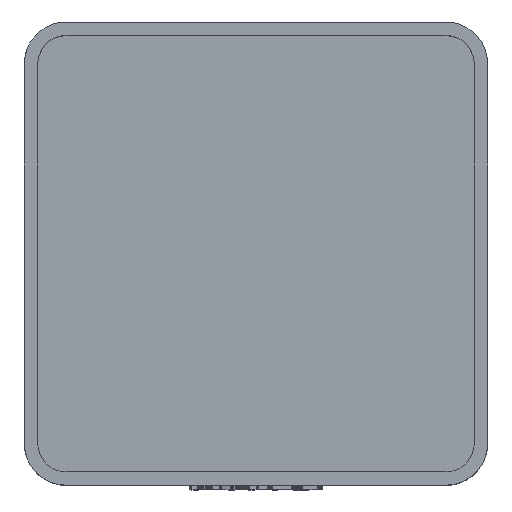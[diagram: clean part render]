
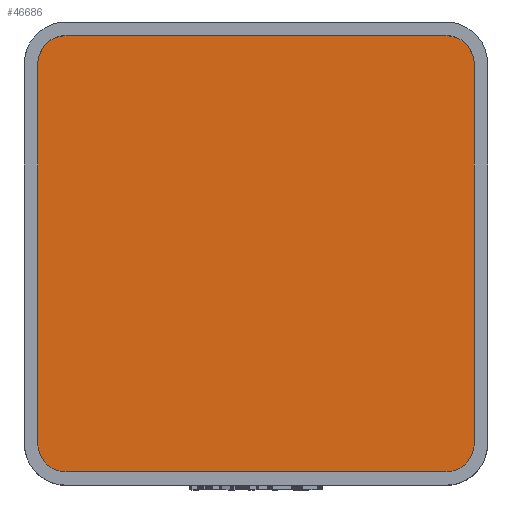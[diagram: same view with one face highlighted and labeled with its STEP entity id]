
A CAD part, top view. The second image highlights one B-rep face of the part: STEP entity #46686.
In plain terms, the highlighted planar face has unit normal (0, 0, 1).
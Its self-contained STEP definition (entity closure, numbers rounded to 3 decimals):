
#1442 = PLANE('',#1443);
#1443 = AXIS2_PLACEMENT_3D('',#1444,#1445,#1446);
#1444 = CARTESIAN_POINT('',(-19.55,-17.,4.75));
#1445 = DIRECTION('',(-1.,0.,0.));
#1446 = DIRECTION('',(0.,1.,0.));
#1474 = CYLINDRICAL_SURFACE('',#1475,2.55);
#1475 = AXIS2_PLACEMENT_3D('',#1476,#1477,#1478);
#1476 = CARTESIAN_POINT('',(-17.,17.,4.75));
#1477 = DIRECTION('',(-0.,-0.,-1.));
#1478 = DIRECTION('',(1.,0.,0.));
#1501 = PLANE('',#1502);
#1502 = AXIS2_PLACEMENT_3D('',#1503,#1504,#1505);
#1503 = CARTESIAN_POINT('',(-17.,19.55,4.75));
#1504 = DIRECTION('',(0.,1.,0.));
#1505 = DIRECTION('',(1.,0.,0.));
#1533 = CYLINDRICAL_SURFACE('',#1534,2.55);
#1534 = AXIS2_PLACEMENT_3D('',#1535,#1536,#1537);
#1535 = CARTESIAN_POINT('',(17.,17.,4.75));
#1536 = DIRECTION('',(-0.,-0.,-1.));
#1537 = DIRECTION('',(1.,0.,0.));
#1560 = PLANE('',#1561);
#1561 = AXIS2_PLACEMENT_3D('',#1562,#1563,#1564);
#1562 = CARTESIAN_POINT('',(19.55,-17.,4.75));
#1563 = DIRECTION('',(-1.,0.,0.));
#1564 = DIRECTION('',(0.,1.,0.));
#1592 = CYLINDRICAL_SURFACE('',#1593,2.55);
#1593 = AXIS2_PLACEMENT_3D('',#1594,#1595,#1596);
#1594 = CARTESIAN_POINT('',(17.,-17.,4.75));
#1595 = DIRECTION('',(-0.,-0.,-1.));
#1596 = DIRECTION('',(1.,0.,0.));
#1619 = PLANE('',#1620);
#1620 = AXIS2_PLACEMENT_3D('',#1621,#1622,#1623);
#1621 = CARTESIAN_POINT('',(-17.,-19.55,4.75));
#1622 = DIRECTION('',(0.,1.,0.));
#1623 = DIRECTION('',(1.,0.,0.));
#1649 = CYLINDRICAL_SURFACE('',#1650,2.55);
#1650 = AXIS2_PLACEMENT_3D('',#1651,#1652,#1653);
#1651 = CARTESIAN_POINT('',(-17.,-17.,4.75));
#1652 = DIRECTION('',(-0.,-0.,-1.));
#1653 = DIRECTION('',(1.,0.,0.));
#17207 = EDGE_CURVE('',#17208,#17210,#17212,.T.);
#17208 = VERTEX_POINT('',#17209);
#17209 = CARTESIAN_POINT('',(-19.55,-17.,4.75));
#17210 = VERTEX_POINT('',#17211);
#17211 = CARTESIAN_POINT('',(-19.55,17.,4.75));
#17212 = SURFACE_CURVE('',#17213,(#17217,#17224),.PCURVE_S1.);
#17213 = LINE('',#17214,#17215);
#17214 = CARTESIAN_POINT('',(-19.55,0.,4.75));
#17215 = VECTOR('',#17216,1.);
#17216 = DIRECTION('',(0.,1.,0.));
#17217 = PCURVE('',#1442,#17218);
#17218 = DEFINITIONAL_REPRESENTATION('',(#17219),#17223);
#17219 = LINE('',#17220,#17221);
#17220 = CARTESIAN_POINT('',(17.,0.));
#17221 = VECTOR('',#17222,1.);
#17222 = DIRECTION('',(1.,0.));
#17223 = ( GEOMETRIC_REPRESENTATION_CONTEXT(2) 
PARAMETRIC_REPRESENTATION_CONTEXT() REPRESENTATION_CONTEXT('2D SPACE',''
  ) );
#17224 = PCURVE('',#17225,#17230);
#17225 = PLANE('',#17226);
#17226 = AXIS2_PLACEMENT_3D('',#17227,#17228,#17229);
#17227 = CARTESIAN_POINT('',(0.,0.,4.75
    ));
#17228 = DIRECTION('',(0.,0.,1.));
#17229 = DIRECTION('',(1.,0.,-0.));
#17230 = DEFINITIONAL_REPRESENTATION('',(#17231),#17235);
#17231 = LINE('',#17232,#17233);
#17232 = CARTESIAN_POINT('',(-19.55,0.));
#17233 = VECTOR('',#17234,1.);
#17234 = DIRECTION('',(0.,1.));
#17235 = ( GEOMETRIC_REPRESENTATION_CONTEXT(2) 
PARAMETRIC_REPRESENTATION_CONTEXT() REPRESENTATION_CONTEXT('2D SPACE',''
  ) );
#17283 = EDGE_CURVE('',#17208,#17284,#17286,.T.);
#17284 = VERTEX_POINT('',#17285);
#17285 = CARTESIAN_POINT('',(-17.,-19.55,4.75));
#17286 = SURFACE_CURVE('',#17287,(#17292,#17299),.PCURVE_S1.);
#17287 = CIRCLE('',#17288,2.55);
#17288 = AXIS2_PLACEMENT_3D('',#17289,#17290,#17291);
#17289 = CARTESIAN_POINT('',(-17.,-17.,4.75));
#17290 = DIRECTION('',(0.,0.,1.));
#17291 = DIRECTION('',(1.,0.,0.));
#17292 = PCURVE('',#1649,#17293);
#17293 = DEFINITIONAL_REPRESENTATION('',(#17294),#17298);
#17294 = LINE('',#17295,#17296);
#17295 = CARTESIAN_POINT('',(-0.,0.));
#17296 = VECTOR('',#17297,1.);
#17297 = DIRECTION('',(-1.,0.));
#17298 = ( GEOMETRIC_REPRESENTATION_CONTEXT(2) 
PARAMETRIC_REPRESENTATION_CONTEXT() REPRESENTATION_CONTEXT('2D SPACE',''
  ) );
#17299 = PCURVE('',#17225,#17300);
#17300 = DEFINITIONAL_REPRESENTATION('',(#17301),#17305);
#17301 = CIRCLE('',#17302,2.55);
#17302 = AXIS2_PLACEMENT_2D('',#17303,#17304);
#17303 = CARTESIAN_POINT('',(-17.,-17.));
#17304 = DIRECTION('',(1.,0.));
#17305 = ( GEOMETRIC_REPRESENTATION_CONTEXT(2) 
PARAMETRIC_REPRESENTATION_CONTEXT() REPRESENTATION_CONTEXT('2D SPACE',''
  ) );
#17333 = EDGE_CURVE('',#17284,#17334,#17336,.T.);
#17334 = VERTEX_POINT('',#17335);
#17335 = CARTESIAN_POINT('',(17.,-19.55,4.75));
#17336 = SURFACE_CURVE('',#17337,(#17341,#17348),.PCURVE_S1.);
#17337 = LINE('',#17338,#17339);
#17338 = CARTESIAN_POINT('',(0.,-19.55,4.75));
#17339 = VECTOR('',#17340,1.);
#17340 = DIRECTION('',(1.,0.,0.));
#17341 = PCURVE('',#1619,#17342);
#17342 = DEFINITIONAL_REPRESENTATION('',(#17343),#17347);
#17343 = LINE('',#17344,#17345);
#17344 = CARTESIAN_POINT('',(17.,0.));
#17345 = VECTOR('',#17346,1.);
#17346 = DIRECTION('',(1.,0.));
#17347 = ( GEOMETRIC_REPRESENTATION_CONTEXT(2) 
PARAMETRIC_REPRESENTATION_CONTEXT() REPRESENTATION_CONTEXT('2D SPACE',''
  ) );
#17348 = PCURVE('',#17225,#17349);
#17349 = DEFINITIONAL_REPRESENTATION('',(#17350),#17354);
#17350 = LINE('',#17351,#17352);
#17351 = CARTESIAN_POINT('',(0.,-19.55));
#17352 = VECTOR('',#17353,1.);
#17353 = DIRECTION('',(1.,0.));
#17354 = ( GEOMETRIC_REPRESENTATION_CONTEXT(2) 
PARAMETRIC_REPRESENTATION_CONTEXT() REPRESENTATION_CONTEXT('2D SPACE',''
  ) );
#17382 = EDGE_CURVE('',#17334,#17383,#17385,.T.);
#17383 = VERTEX_POINT('',#17384);
#17384 = CARTESIAN_POINT('',(19.55,-17.,4.75));
#17385 = SURFACE_CURVE('',#17386,(#17391,#17398),.PCURVE_S1.);
#17386 = CIRCLE('',#17387,2.55);
#17387 = AXIS2_PLACEMENT_3D('',#17388,#17389,#17390);
#17388 = CARTESIAN_POINT('',(17.,-17.,4.75));
#17389 = DIRECTION('',(0.,0.,1.));
#17390 = DIRECTION('',(1.,0.,0.));
#17391 = PCURVE('',#1592,#17392);
#17392 = DEFINITIONAL_REPRESENTATION('',(#17393),#17397);
#17393 = LINE('',#17394,#17395);
#17394 = CARTESIAN_POINT('',(-0.,0.));
#17395 = VECTOR('',#17396,1.);
#17396 = DIRECTION('',(-1.,0.));
#17397 = ( GEOMETRIC_REPRESENTATION_CONTEXT(2) 
PARAMETRIC_REPRESENTATION_CONTEXT() REPRESENTATION_CONTEXT('2D SPACE',''
  ) );
#17398 = PCURVE('',#17225,#17399);
#17399 = DEFINITIONAL_REPRESENTATION('',(#17400),#17404);
#17400 = CIRCLE('',#17401,2.55);
#17401 = AXIS2_PLACEMENT_2D('',#17402,#17403);
#17402 = CARTESIAN_POINT('',(17.,-17.));
#17403 = DIRECTION('',(1.,0.));
#17404 = ( GEOMETRIC_REPRESENTATION_CONTEXT(2) 
PARAMETRIC_REPRESENTATION_CONTEXT() REPRESENTATION_CONTEXT('2D SPACE',''
  ) );
#17432 = EDGE_CURVE('',#17383,#17433,#17435,.T.);
#17433 = VERTEX_POINT('',#17434);
#17434 = CARTESIAN_POINT('',(19.55,17.,4.75));
#17435 = SURFACE_CURVE('',#17436,(#17440,#17447),.PCURVE_S1.);
#17436 = LINE('',#17437,#17438);
#17437 = CARTESIAN_POINT('',(19.55,0.,4.75));
#17438 = VECTOR('',#17439,1.);
#17439 = DIRECTION('',(0.,1.,0.));
#17440 = PCURVE('',#1560,#17441);
#17441 = DEFINITIONAL_REPRESENTATION('',(#17442),#17446);
#17442 = LINE('',#17443,#17444);
#17443 = CARTESIAN_POINT('',(17.,0.));
#17444 = VECTOR('',#17445,1.);
#17445 = DIRECTION('',(1.,0.));
#17446 = ( GEOMETRIC_REPRESENTATION_CONTEXT(2) 
PARAMETRIC_REPRESENTATION_CONTEXT() REPRESENTATION_CONTEXT('2D SPACE',''
  ) );
#17447 = PCURVE('',#17225,#17448);
#17448 = DEFINITIONAL_REPRESENTATION('',(#17449),#17453);
#17449 = LINE('',#17450,#17451);
#17450 = CARTESIAN_POINT('',(19.55,0.));
#17451 = VECTOR('',#17452,1.);
#17452 = DIRECTION('',(0.,1.));
#17453 = ( GEOMETRIC_REPRESENTATION_CONTEXT(2) 
PARAMETRIC_REPRESENTATION_CONTEXT() REPRESENTATION_CONTEXT('2D SPACE',''
  ) );
#17481 = EDGE_CURVE('',#17433,#17482,#17484,.T.);
#17482 = VERTEX_POINT('',#17483);
#17483 = CARTESIAN_POINT('',(17.,19.55,4.75));
#17484 = SURFACE_CURVE('',#17485,(#17490,#17497),.PCURVE_S1.);
#17485 = CIRCLE('',#17486,2.55);
#17486 = AXIS2_PLACEMENT_3D('',#17487,#17488,#17489);
#17487 = CARTESIAN_POINT('',(17.,17.,4.75));
#17488 = DIRECTION('',(0.,0.,1.));
#17489 = DIRECTION('',(1.,0.,0.));
#17490 = PCURVE('',#1533,#17491);
#17491 = DEFINITIONAL_REPRESENTATION('',(#17492),#17496);
#17492 = LINE('',#17493,#17494);
#17493 = CARTESIAN_POINT('',(-0.,0.));
#17494 = VECTOR('',#17495,1.);
#17495 = DIRECTION('',(-1.,0.));
#17496 = ( GEOMETRIC_REPRESENTATION_CONTEXT(2) 
PARAMETRIC_REPRESENTATION_CONTEXT() REPRESENTATION_CONTEXT('2D SPACE',''
  ) );
#17497 = PCURVE('',#17225,#17498);
#17498 = DEFINITIONAL_REPRESENTATION('',(#17499),#17503);
#17499 = CIRCLE('',#17500,2.55);
#17500 = AXIS2_PLACEMENT_2D('',#17501,#17502);
#17501 = CARTESIAN_POINT('',(17.,17.));
#17502 = DIRECTION('',(1.,0.));
#17503 = ( GEOMETRIC_REPRESENTATION_CONTEXT(2) 
PARAMETRIC_REPRESENTATION_CONTEXT() REPRESENTATION_CONTEXT('2D SPACE',''
  ) );
#17531 = EDGE_CURVE('',#17532,#17482,#17534,.T.);
#17532 = VERTEX_POINT('',#17533);
#17533 = CARTESIAN_POINT('',(-17.,19.55,4.75));
#17534 = SURFACE_CURVE('',#17535,(#17539,#17546),.PCURVE_S1.);
#17535 = LINE('',#17536,#17537);
#17536 = CARTESIAN_POINT('',(0.,19.55,4.75));
#17537 = VECTOR('',#17538,1.);
#17538 = DIRECTION('',(1.,0.,0.));
#17539 = PCURVE('',#1501,#17540);
#17540 = DEFINITIONAL_REPRESENTATION('',(#17541),#17545);
#17541 = LINE('',#17542,#17543);
#17542 = CARTESIAN_POINT('',(17.,0.));
#17543 = VECTOR('',#17544,1.);
#17544 = DIRECTION('',(1.,0.));
#17545 = ( GEOMETRIC_REPRESENTATION_CONTEXT(2) 
PARAMETRIC_REPRESENTATION_CONTEXT() REPRESENTATION_CONTEXT('2D SPACE',''
  ) );
#17546 = PCURVE('',#17225,#17547);
#17547 = DEFINITIONAL_REPRESENTATION('',(#17548),#17552);
#17548 = LINE('',#17549,#17550);
#17549 = CARTESIAN_POINT('',(0.,19.55));
#17550 = VECTOR('',#17551,1.);
#17551 = DIRECTION('',(1.,0.));
#17552 = ( GEOMETRIC_REPRESENTATION_CONTEXT(2) 
PARAMETRIC_REPRESENTATION_CONTEXT() REPRESENTATION_CONTEXT('2D SPACE',''
  ) );
#17580 = EDGE_CURVE('',#17532,#17210,#17581,.T.);
#17581 = SURFACE_CURVE('',#17582,(#17587,#17594),.PCURVE_S1.);
#17582 = CIRCLE('',#17583,2.55);
#17583 = AXIS2_PLACEMENT_3D('',#17584,#17585,#17586);
#17584 = CARTESIAN_POINT('',(-17.,17.,4.75));
#17585 = DIRECTION('',(0.,0.,1.));
#17586 = DIRECTION('',(1.,0.,0.));
#17587 = PCURVE('',#1474,#17588);
#17588 = DEFINITIONAL_REPRESENTATION('',(#17589),#17593);
#17589 = LINE('',#17590,#17591);
#17590 = CARTESIAN_POINT('',(-0.,0.));
#17591 = VECTOR('',#17592,1.);
#17592 = DIRECTION('',(-1.,0.));
#17593 = ( GEOMETRIC_REPRESENTATION_CONTEXT(2) 
PARAMETRIC_REPRESENTATION_CONTEXT() REPRESENTATION_CONTEXT('2D SPACE',''
  ) );
#17594 = PCURVE('',#17225,#17595);
#17595 = DEFINITIONAL_REPRESENTATION('',(#17596),#17600);
#17596 = CIRCLE('',#17597,2.55);
#17597 = AXIS2_PLACEMENT_2D('',#17598,#17599);
#17598 = CARTESIAN_POINT('',(-17.,17.));
#17599 = DIRECTION('',(1.,0.));
#17600 = ( GEOMETRIC_REPRESENTATION_CONTEXT(2) 
PARAMETRIC_REPRESENTATION_CONTEXT() REPRESENTATION_CONTEXT('2D SPACE',''
  ) );
#46686 = ADVANCED_FACE('',(#46687),#17225,.T.);
#46687 = FACE_BOUND('',#46688,.T.);
#46688 = EDGE_LOOP('',(#46689,#46690,#46691,#46692,#46693,#46694,#46695,
    #46696));
#46689 = ORIENTED_EDGE('',*,*,#17207,.F.);
#46690 = ORIENTED_EDGE('',*,*,#17283,.T.);
#46691 = ORIENTED_EDGE('',*,*,#17333,.T.);
#46692 = ORIENTED_EDGE('',*,*,#17382,.T.);
#46693 = ORIENTED_EDGE('',*,*,#17432,.T.);
#46694 = ORIENTED_EDGE('',*,*,#17481,.T.);
#46695 = ORIENTED_EDGE('',*,*,#17531,.F.);
#46696 = ORIENTED_EDGE('',*,*,#17580,.T.);
